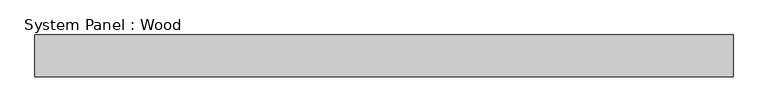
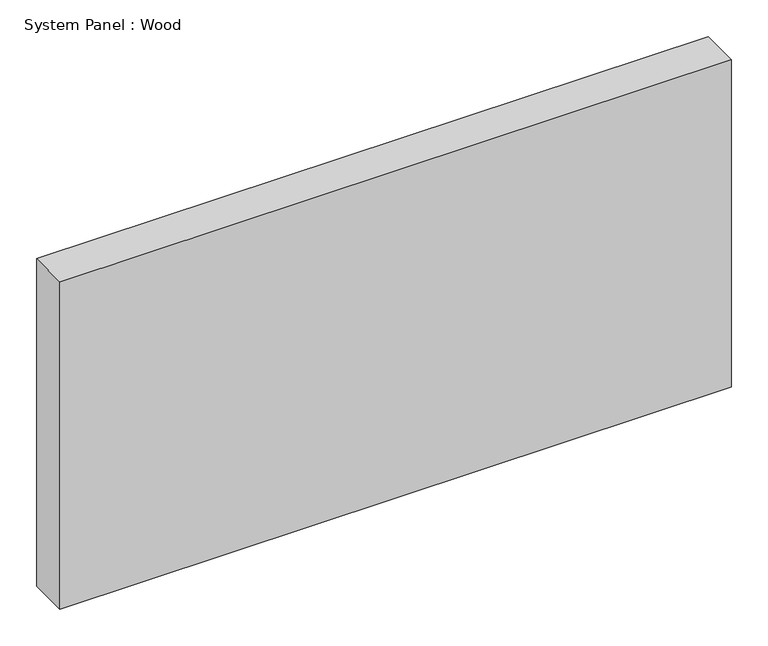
"""IFC4 building model written with IfcOpenShell, lengths in millimetres: plate geometry, System Panel : Wood."""

from ifc_helpers import new_model, si_unit, origin, origin_with_axes, place, context, project, spatial, polyline, outline, extrude, source, transform, mapped, element, save


def system_panel_wood_976f854f(model_context):
    return source(origin(), model_context, "Body", "SweptSolid", [
        extrude(outline(polyline([(529.5446429, -19.05), (-529.5446429, -19.05), (-529.5446429, 44.45), (529.5446429, 44.45), (529.5446429, -19.05)])), origin_with_axes(), (0.0, 0.0, 1.0), 546.1),
    ])


if __name__ == "__main__":
    model = new_model("IFC4")
    model_context = context("Model", 3, world=origin())
    ifc_project = project(units=[si_unit("LENGTHUNIT", "METRE", prefix="MILLI")], contexts=[model_context])
    site = spatial("IfcSite", under=ifc_project)
    building = spatial("IfcBuilding", under=site)
    placement = place(None, origin())
    system_panel_wood_shape = system_panel_wood_976f854f(model_context)
    element("IfcPlate", 1, ObjectType="System Panel : Wood", at=placement, inside=building, context=model_context, shape_type="MappedRepresentation", body=[
        mapped(system_panel_wood_shape, transform((0.0, 0.0, 0.0), x_axis=(1.0, 0.0, 0.0), y_axis=(0.0, 1.0, 0.0), z_axis=(0.0, 0.0, 1.0))),
    ])
    save(model, "model.ifc")
